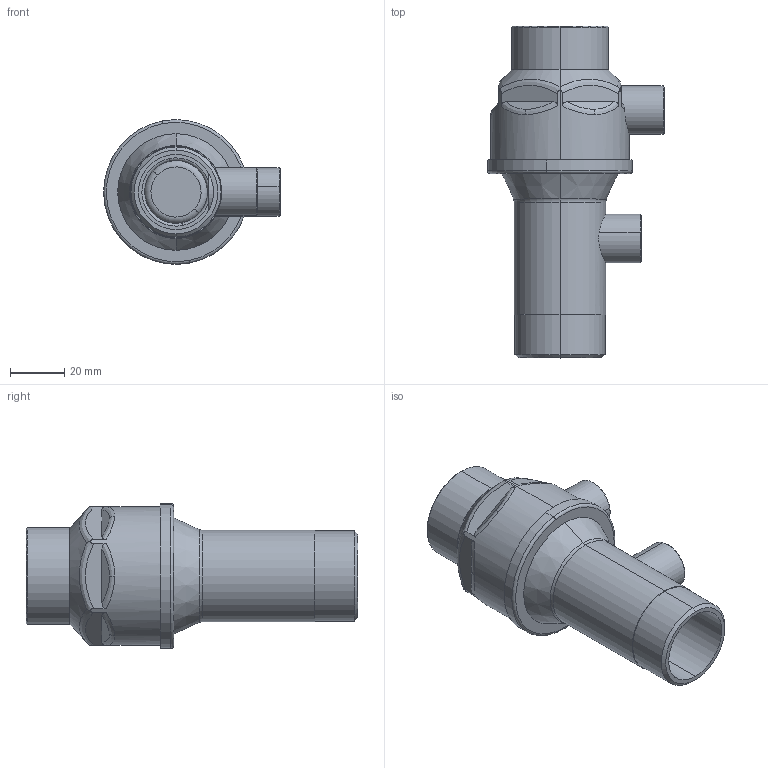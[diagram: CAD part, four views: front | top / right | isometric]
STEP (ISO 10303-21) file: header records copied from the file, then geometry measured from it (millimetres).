
FILE_DESCRIPTION (( 'STEP AP203' ), '1' );
FILE_NAME ('06B2124.STEP', '2021-05-13T13:28:52', ( '' ), ( '' ), 'SwSTEP 2.0', 'SolidWorks 2016', '' );
FILE_SCHEMA (( 'CONFIG_CONTROL_DESIGN' ));
Length unit declared in the file: millimetre
Products named in the file (15): 06B2124; 05M9502 X G1; 04D9903 X G1; 06B2130; 06B2127; 06B2131; 06B2128; 06B2129; 06I9611 X G1; 06F97003 X G1; 06I9610 X G1; 06B2125; 06B2126; 06I0608 X G1; 06I9603 X G1
Assembly tree (14 placements, depth 4):
  06B2124
    06B2126
      06B2125
      06B2127
      06I0608 X G1
    06B2131
      06B2129
        06B2128
        06B2130
      06I9610 X G1
      04D9903 X G1
      06I9603 X G1
      05M9502 X G1
      06I9611 X G1
      06F97003 X G1
Bounding box: 65.2 x 122.4 x 53.39 mm (x, y, z)
Volume: 41107.7 mm3; surface area: 48500.8 mm2
Topology: 11 solids, 11 shells, 314 faces, 766 edges, 488 vertices
Faces by surface type: cylinder 102, plane 90, torus 48, bspline 38, cone 36
Entity records: 17157 total; most frequent: CARTESIAN_POINT 8366, ORIENTED_EDGE 1532, DIRECTION 1522, EDGE_CURVE 766, AXIS2_PLACEMENT_3D 636, VERTEX_POINT 488, EDGE_LOOP 350, CIRCLE 340
